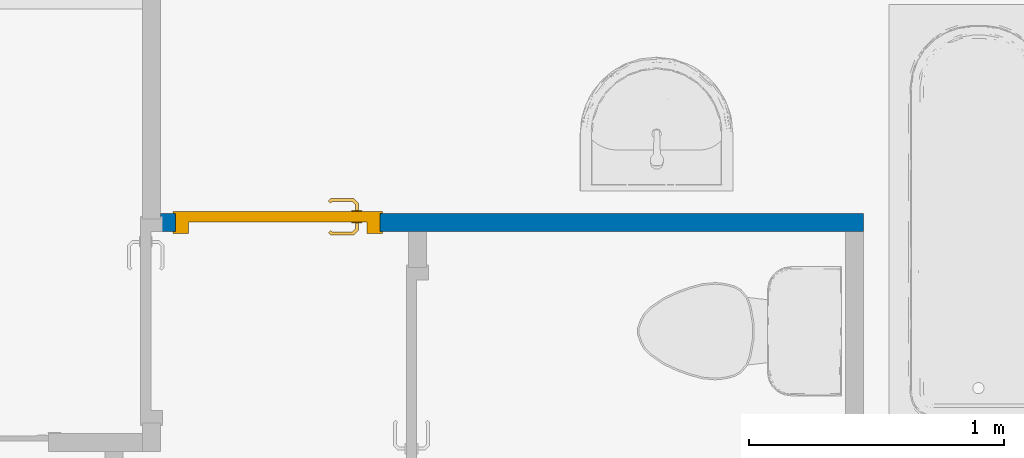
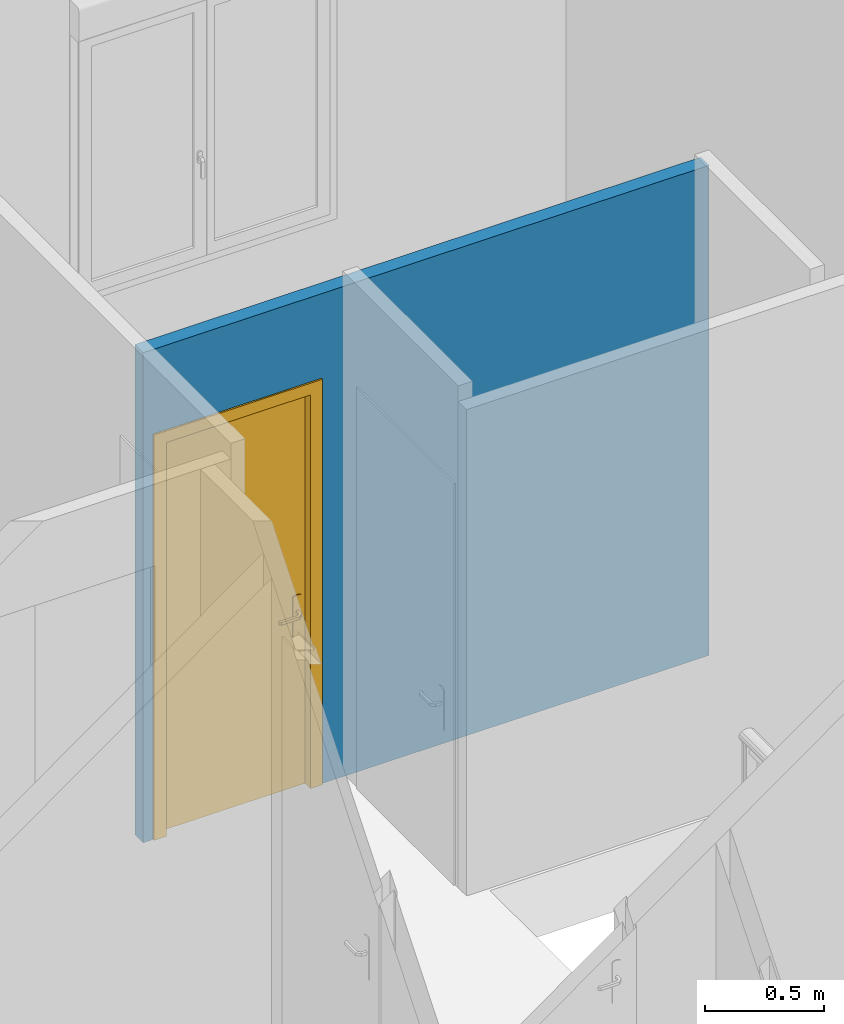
# One storey, part 20 of 50: 1 door, 1 wall, 1 opening.
"""IFC2X3 building model written with IfcOpenShell, lengths in metres."""

from ifc_helpers import new_model, entity, si_unit, converted_unit, derived_unit, direction, frame, frame_2d, origin, place, context, subcontext, project, spatial, rectangle, extrude, faceted_brep, source, transform, mapped, material, material_list, layer, layer_set, layer_usage, type_object, type_shapes, element, fill, save


model = new_model("IFC2X3")

# Units and contexts
model_context = context("Model", 3, precision=1e-05, world=origin(), true_north=direction((6.12303176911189e-17, 1.0)))
context_of_model = context(None, 3, precision=1e-05, world=origin(), true_north=direction((6.12303176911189e-17, 1.0)))
body_context = subcontext(model_context, "Body", "Model", "MODEL_VIEW")
ifc_project = project(units=[si_unit("LENGTHUNIT", "METRE"), si_unit("AREAUNIT", "SQUARE_METRE"), si_unit("VOLUMEUNIT", "CUBIC_METRE"), converted_unit("PLANEANGLEUNIT", "DEGREE", entity("IfcRatioMeasure", 0.0174532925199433), si_unit("PLANEANGLEUNIT", "RADIAN"), dimensions=[0, 0, 0, 0, 0, 0, 0]), si_unit("MASSUNIT", "GRAM", prefix="KILO"), si_unit("TIMEUNIT", "SECOND"), si_unit("FREQUENCYUNIT", "HERTZ"), si_unit("THERMODYNAMICTEMPERATUREUNIT", "DEGREE_CELSIUS"), derived_unit("THERMALTRANSMITTANCEUNIT", [(si_unit("MASSUNIT", "GRAM", prefix="KILO"), 1), (si_unit("THERMODYNAMICTEMPERATUREUNIT", "KELVIN"), -1), (si_unit("TIMEUNIT", "SECOND"), -3)]), derived_unit("VOLUMETRICFLOWRATEUNIT", [(si_unit("LENGTHUNIT", "METRE"), 3), (si_unit("TIMEUNIT", "SECOND"), -1)]), si_unit("ELECTRICCURRENTUNIT", "AMPERE"), si_unit("ELECTRICVOLTAGEUNIT", "VOLT"), si_unit("POWERUNIT", "WATT"), si_unit("FORCEUNIT", "NEWTON", prefix="KILO"), si_unit("ILLUMINANCEUNIT", "LUX"), si_unit("LUMINOUSFLUXUNIT", "LUMEN"), si_unit("LUMINOUSINTENSITYUNIT", "CANDELA"), si_unit("PRESSUREUNIT", "PASCAL")], contexts=[model_context, context_of_model])

# Site, building, storey
site_placement = place(None, origin())
site = spatial("IfcSite", under=ifc_project, at=site_placement, Name="Surface", CompositionType="ELEMENT")
building_placement = place(site_placement, origin())
building = spatial("IfcBuilding", under=site, at=building_placement, CompositionType="ELEMENT")
storey_placement = place(building_placement, frame((0.0, 0.0, 2.82)))
storey = spatial("IfcBuildingStorey", under=building, at=storey_placement, Name="ETAGE", CompositionType="ELEMENT", Elevation=2.82)

# Wall, opening, door
ifc_material_1 = material(Name="Peinture - Blanc")
ifc_layer = layer(ifc_material_1, 0.07)
ifc_layer_set = layer_set([ifc_layer], Name="Mur de base:Int.  Platre 70 mm en blanc")
ifc_layer_usage = layer_usage(ifc_layer_set, "AXIS2", "POSITIVE", -0.035)
wall_type = type_object("IfcWallType", Name="Mur de base:Int.  Platre 70 mm en blanc", PredefinedType="STANDARD", material=ifc_layer_set)
wall_placement = place(storey_placement, frame((67.8146263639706, 85.5527566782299, 0.0), z_axis=(0.0, 0.0, 1.0), x_axis=(-1.0, 0.0, 0.0)))
wall = element("IfcWallStandardCase", 1, at=wall_placement, inside=storey, type_object=wall_type, material=ifc_layer_usage, Name="Mur de base:Int.  Platre 70 mm en blanc", ObjectType="Mur de base:Int.  Platre 70 mm en blanc", context=body_context, shape_type="SweptSolid", body=[
    extrude(rectangle(XDim=2.75211659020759, YDim=0.0699999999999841, at=frame_2d((1.37605829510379, 1.64451785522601e-15), x_axis=(-1.0, 0.0))), origin(), (0.0, 0.0, 1.0), 2.52),
])
opening_placement = place(wall_placement, frame((2.69355829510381, 0.0350000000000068, 0.0)))
opening = element("IfcOpeningElement", 2, at=opening_placement, cuts=wall, Name="FR_Simple (R):73 x 204 - (70):1", ObjectType="Opening", context=body_context, shape_type="SweptSolid", body=[
    extrude(rectangle(XDim=2.075, YDim=0.799999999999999, at=frame_2d((1.0375, 0.4), x_axis=(1.0, 0.0))), frame((0.0, 0.0, 0.0), z_axis=(0.0, -1.0, 0.0), x_axis=(0.0, 0.0, 1.0)), (0.0, 0.0, 1.0), 0.07),
])
ifc_material_2 = material(Name="Poignée Porte")
ifc_material_3 = material(Name="Dormants Portes")
ifc_material_4 = material(Name="Panneaux Portes")
ifc_material_list_1 = material_list([ifc_material_2, ifc_material_3, ifc_material_4])
ifc_material_list_2 = material_list([ifc_material_2, ifc_material_3, ifc_material_4])
door_style = type_object("IfcDoorStyle", Name="73 x 204 - (70)", ConstructionType="NOTDEFINED", OperationType="SINGLE_SWING_LEFT", ParameterTakesPrecedence=False, Sizeable=False, material=ifc_material_list_2)
shared_shape = source(origin(), body_context, "Body", "Brep", [
    faceted_brep([(0.100352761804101, -0.0130000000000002, 0.766003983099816), (0.11, -0.0130000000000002, 0.770000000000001), (0.11, -0.0130000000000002, 0.980000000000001), (0.100352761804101, -0.0130000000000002, 0.983996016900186), (0.0900000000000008, -0.0130000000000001, 0.985358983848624), (0.0796472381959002, -0.0130000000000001, 0.983996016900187), (0.0700000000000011, -0.0130000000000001, 0.980000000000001), (0.0700000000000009, -0.0130000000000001, 0.770000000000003), (0.0796472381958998, -0.0130000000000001, 0.766003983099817), (0.0900000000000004, -0.0130000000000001, 0.764641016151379), (0.100352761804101, -0.00800000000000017, 0.983996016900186), (0.11, -0.00800000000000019, 0.980000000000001), (0.11, -0.00800000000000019, 0.770000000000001), (0.100352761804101, -0.00800000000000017, 0.766003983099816), (0.0900000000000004, -0.00800000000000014, 0.764641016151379), (0.0796472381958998, -0.0080000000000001, 0.766003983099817), (0.0700000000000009, -0.00800000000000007, 0.770000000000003), (0.0700000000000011, -0.00800000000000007, 0.980000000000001), (0.0796472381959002, -0.0080000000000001, 0.983996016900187), (0.0900000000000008, -0.00800000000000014, 0.985358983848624)], [[[0, 1, 2, 3, 4, 5, 6, 7, 8, 9]], [[10, 11, 12, 13, 14, 15, 16, 17, 18, 19]], [[16, 15, 8, 7]], [[8, 15, 14, 9]], [[14, 13, 0, 9]], [[13, 12, 1, 0]], [[2, 1, 12, 11]], [[11, 10, 3, 2]], [[3, 10, 19, 4]], [[19, 18, 5, 4]], [[18, 17, 6, 5]], [[7, 6, 17, 16]]]),
    faceted_brep([(0.100352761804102, 0.0319999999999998, 0.766003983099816), (0.110000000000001, 0.0319999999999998, 0.770000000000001), (0.11, 0.0319999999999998, 0.980000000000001), (0.100352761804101, 0.0319999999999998, 0.983996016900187), (0.0900000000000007, 0.0319999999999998, 0.985358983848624), (0.0796472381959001, 0.0319999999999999, 0.983996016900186), (0.0700000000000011, 0.0319999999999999, 0.980000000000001), (0.0700000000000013, 0.0319999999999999, 0.770000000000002), (0.0796472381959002, 0.0319999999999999, 0.766003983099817), (0.0900000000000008, 0.0319999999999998, 0.764641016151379), (0.100352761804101, 0.0369999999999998, 0.983996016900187), (0.11, 0.0369999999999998, 0.980000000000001), (0.110000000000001, 0.0369999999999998, 0.770000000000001), (0.100352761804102, 0.0369999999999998, 0.766003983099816), (0.0900000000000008, 0.0369999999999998, 0.764641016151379), (0.0796472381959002, 0.0369999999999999, 0.766003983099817), (0.0700000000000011, 0.0369999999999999, 0.770000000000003), (0.0700000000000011, 0.0369999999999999, 0.980000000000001), (0.0796472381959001, 0.0369999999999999, 0.983996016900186), (0.0900000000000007, 0.0369999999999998, 0.985358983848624)], [[[0, 1, 2, 3, 4, 5, 6, 7, 8, 9]], [[10, 11, 12, 13, 14, 15, 16, 17, 18, 19]], [[11, 10, 3, 2]], [[3, 10, 19, 4]], [[19, 18, 5, 4]], [[18, 17, 6, 5]], [[7, 6, 17, 16]], [[16, 15, 8, 7]], [[8, 15, 14, 9]], [[14, 13, 0, 9]], [[13, 12, 1, 0]], [[2, 1, 12, 11]]]),
    faceted_brep([(0.0879747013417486, -0.0130000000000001, 0.907780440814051), (0.0920252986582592, -0.0130000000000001, 0.907780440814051), (0.0960000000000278, -0.0130000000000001, 0.906999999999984), (0.0960000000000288, -0.0130000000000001, 0.893000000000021), (0.0920252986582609, -0.0130000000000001, 0.89221955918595), (0.0879747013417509, -0.0130000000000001, 0.892219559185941), (0.0839999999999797, -0.0130000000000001, 0.892999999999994), (0.0839999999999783, -0.0130000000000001, 0.90699999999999), (0.083999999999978, -0.0406509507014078, 0.906999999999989), (0.0879747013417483, -0.0390045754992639, 0.907780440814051), (0.104023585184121, -0.0550534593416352, 0.907780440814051), (0.105701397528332, -0.0510028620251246, 0.907780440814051), (0.0920252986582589, -0.0373267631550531, 0.907780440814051), (0.198521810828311, -0.0473891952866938, 0.90778044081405), (0.195657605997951, -0.0445249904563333, 0.90778044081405), (0.18917973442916, -0.0510028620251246, 0.90778044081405), (0.190857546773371, -0.0550534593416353, 0.90778044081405), (0.0960000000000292, -0.0356803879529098, 0.90699999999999), (0.0960000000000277, -0.0356803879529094, 0.893000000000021), (0.0920252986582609, -0.0373267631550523, 0.89221955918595), (0.105701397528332, -0.0510028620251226, 0.89221955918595), (0.104023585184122, -0.0550534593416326, 0.89221955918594), (0.0879747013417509, -0.0390045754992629, 0.89221955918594), (0.195657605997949, -0.044524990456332, 0.89221955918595), (0.19852181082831, -0.0473891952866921, 0.89221955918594), (0.19085754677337, -0.0550534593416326, 0.89221955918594), (0.18917973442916, -0.0510028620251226, 0.89221955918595), (0.0839999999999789, -0.0406509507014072, 0.892999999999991), (0.102377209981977, -0.0590281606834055, 0.906999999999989), (0.107347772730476, -0.0470281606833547, 0.90699999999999), (0.107347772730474, -0.0470281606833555, 0.893000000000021), (0.102377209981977, -0.0590281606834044, 0.892999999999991), (0.142307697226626, -0.0590281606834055, 0.906999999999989), (0.147440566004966, -0.053182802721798, 0.907878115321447), (0.192503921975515, -0.0590281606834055, 0.906999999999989), (0.147440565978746, -0.0470281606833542, 0.90699999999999), (0.187533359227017, -0.0470281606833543, 0.906999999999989), (0.187533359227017, -0.0470281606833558, 0.89300000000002), (0.147440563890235, -0.0470281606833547, 0.893000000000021), (0.147440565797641, -0.0531828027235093, 0.892121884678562), (0.192503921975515, -0.0590281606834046, 0.892999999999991), (0.152573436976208, -0.0590281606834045, 0.892999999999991), (0.192847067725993, -0.0417144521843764, 0.906999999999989), (0.201332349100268, -0.0501997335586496, 0.906999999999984), (0.201332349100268, -0.05019973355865, 0.892999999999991), (0.192847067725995, -0.0417144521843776, 0.893000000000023)], [[[0, 1, 2, 3, 4, 5, 6, 7]], [[8, 9, 0, 7]], [[9, 10, 11, 12, 1, 0]], [[13, 14, 15, 16]], [[12, 17, 2, 1]], [[3, 2, 17, 18]], [[18, 19, 4, 3]], [[19, 20, 21, 22, 5, 4]], [[23, 24, 25, 26]], [[22, 27, 6, 5]], [[7, 6, 27, 8]], [[28, 10, 9, 8]], [[11, 29, 17, 12]], [[18, 17, 29, 30]], [[30, 20, 19, 18]], [[21, 31, 27, 22]], [[8, 27, 31, 28]], [[32, 33, 10]], [[33, 32, 16]], [[10, 28, 32]], [[34, 16, 32]], [[33, 35, 11]], [[11, 10, 33]], [[15, 35, 33]], [[29, 11, 35]], [[35, 15, 36]], [[15, 33, 16]], [[30, 29, 35, 36, 37, 38]], [[20, 38, 39]], [[25, 40, 41]], [[31, 21, 41]], [[41, 21, 39]], [[39, 38, 26]], [[26, 25, 39]], [[38, 20, 30]], [[37, 26, 38]], [[20, 39, 21]], [[41, 39, 25]], [[28, 31, 41, 40, 34, 32]], [[42, 14, 13, 43, 44, 24, 23, 45]], [[43, 13, 16, 34]], [[14, 42, 36, 15]], [[37, 36, 42, 45]], [[45, 23, 26, 37]], [[24, 44, 40, 25]], [[34, 40, 44, 43]]]),
    faceted_brep([(0.0879747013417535, 0.0369999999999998, 0.892219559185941), (0.092025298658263, 0.0369999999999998, 0.892219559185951), (0.0960000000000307, 0.0369999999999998, 0.893000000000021), (0.096000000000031, 0.0369999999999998, 0.90699999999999), (0.0920252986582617, 0.0369999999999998, 0.907780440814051), (0.0879747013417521, 0.0369999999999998, 0.907780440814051), (0.0839999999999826, 0.0369999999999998, 0.90699999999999), (0.0839999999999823, 0.0369999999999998, 0.892999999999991), (0.0960000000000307, 0.0594852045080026, 0.893000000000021), (0.0960000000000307, 0.0594852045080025, 0.90699999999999), (0.092025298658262, 0.0611315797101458, 0.907780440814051), (0.105838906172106, 0.0749451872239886, 0.907780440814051), (0.104161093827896, 0.0789957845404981, 0.907780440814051), (0.0879747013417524, 0.0628093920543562, 0.907780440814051), (0.195684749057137, 0.0684673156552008, 0.907780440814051), (0.198548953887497, 0.071331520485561, 0.907780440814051), (0.190884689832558, 0.0789957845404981, 0.907780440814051), (0.189206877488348, 0.0749451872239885, 0.907780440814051), (0.0839999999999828, 0.0644557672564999, 0.90699999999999), (0.0839999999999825, 0.0644557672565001, 0.892999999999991), (0.0879747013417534, 0.0628093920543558, 0.892219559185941), (0.104161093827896, 0.0789957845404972, 0.892219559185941), (0.105838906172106, 0.0749451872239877, 0.892219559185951), (0.0920252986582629, 0.0611315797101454, 0.892219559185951), (0.198548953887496, 0.07133152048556, 0.89221955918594), (0.195684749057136, 0.0684673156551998, 0.89221955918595), (0.189206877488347, 0.0749451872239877, 0.89221955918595), (0.190884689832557, 0.0789957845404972, 0.89221955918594), (0.107485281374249, 0.0709704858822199, 0.893000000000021), (0.107485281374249, 0.0709704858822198, 0.90699999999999), (0.102514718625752, 0.0829704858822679, 0.90699999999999), (0.102514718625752, 0.0829704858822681, 0.892999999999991), (0.147522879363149, 0.0709704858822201, 0.89300000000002), (0.187560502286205, 0.0709704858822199, 0.89300000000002), (0.187560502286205, 0.0709704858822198, 0.90699999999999), (0.147522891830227, 0.0709704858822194, 0.90699999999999), (0.147522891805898, 0.0771249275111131, 0.907878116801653), (0.192531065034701, 0.0829704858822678, 0.90699999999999), (0.152600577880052, 0.0829704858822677, 0.90699999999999), (0.192531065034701, 0.082970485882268, 0.892999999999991), (0.142445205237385, 0.0829704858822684, 0.892999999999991), (0.147522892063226, 0.0771249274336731, 0.892121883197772), (0.192874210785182, 0.0656567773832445, 0.89300000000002), (0.201359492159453, 0.0741420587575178, 0.892999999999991), (0.201359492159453, 0.0741420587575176, 0.90699999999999), (0.192874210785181, 0.0656567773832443, 0.90699999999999)], [[[0, 1, 2, 3, 4, 5, 6, 7]], [[3, 2, 8, 9]], [[9, 10, 4, 3]], [[10, 11, 12, 13, 5, 4]], [[14, 15, 16, 17]], [[13, 18, 6, 5]], [[7, 6, 18, 19]], [[19, 20, 0, 7]], [[20, 21, 22, 23, 1, 0]], [[24, 25, 26, 27]], [[23, 8, 2, 1]], [[9, 8, 28, 29]], [[29, 11, 10, 9]], [[12, 30, 18, 13]], [[19, 18, 30, 31]], [[31, 21, 20, 19]], [[22, 28, 8, 23]], [[28, 32, 33, 34, 35, 29]], [[11, 35, 36]], [[16, 37, 38]], [[30, 12, 38]], [[38, 12, 36]], [[36, 35, 17]], [[17, 16, 36]], [[35, 11, 29]], [[34, 17, 35]], [[11, 36, 12]], [[38, 36, 16]], [[31, 30, 38, 37, 39, 40]], [[40, 41, 21]], [[41, 40, 27]], [[21, 31, 40]], [[39, 27, 40]], [[41, 32, 22]], [[22, 21, 41]], [[26, 32, 41]], [[28, 22, 32]], [[32, 26, 33]], [[26, 41, 27]], [[42, 25, 24, 43, 44, 15, 14, 45]], [[34, 33, 42, 45]], [[45, 14, 17, 34]], [[15, 44, 37, 16]], [[39, 37, 44, 43]], [[43, 24, 27, 39]], [[25, 42, 33, 26]]]),
    faceted_brep([(0.0, 0.0, 0.0), (0.0, 0.0700000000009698, 0.0), (-0.00999999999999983, 0.0700000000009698, 0.0), (-0.00999999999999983, 0.0780000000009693, 0.0), (0.0499999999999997, 0.0780000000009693, 0.0), (0.0499999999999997, 0.032, 0.0), (0.0350000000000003, 0.032, 0.0), (0.0350000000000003, -0.00799999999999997, 0.0), (-0.00999999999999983, -0.00799999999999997, 0.0), (-0.00999999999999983, 0.0, 0.0), (0.0, 0.0, 2.075), (0.0, 0.0700000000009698, 2.075), (0.799999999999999, 0.0700000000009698, 2.075), (0.799999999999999, 0.0700000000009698, 0.0), (0.809999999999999, 0.0700000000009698, 0.0), (0.809999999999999, 0.0700000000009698, 2.085), (-0.00999999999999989, 0.0700000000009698, 2.085), (-0.00999999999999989, 0.0780000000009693, 2.085), (0.809999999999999, 0.0780000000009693, 2.085), (0.809999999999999, 0.0780000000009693, 0.0), (0.75, 0.0780000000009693, 0.0), (0.75, 0.0780000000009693, 2.025), (0.0499999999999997, 0.0780000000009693, 2.025), (0.0499999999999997, 0.032, 2.025), (0.75, 0.032, 2.025), (0.75, 0.032, 0.0), (0.764999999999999, 0.032, 0.0), (0.764999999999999, 0.032, 2.04), (0.0350000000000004, 0.032, 2.04), (0.0350000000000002, -0.00799999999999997, 2.04), (0.764999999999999, -0.00799999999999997, 2.04), (0.764999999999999, -0.00799999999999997, 0.0), (0.809999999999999, -0.00799999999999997, 0.0), (0.809999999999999, -0.00799999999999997, 2.085), (-0.00999999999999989, -0.00799999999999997, 2.085), (-0.00999999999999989, 0.0, 2.085), (0.809999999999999, 0.0, 2.085), (0.809999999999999, 0.0, 0.0), (0.799999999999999, 0.0, 0.0), (0.799999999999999, 0.0, 2.075)], [[[0, 1, 2, 3, 4, 5, 6, 7, 8, 9]], [[1, 0, 10, 11]], [[2, 1, 11, 12, 13, 14, 15, 16]], [[3, 2, 16, 17]], [[4, 3, 17, 18, 19, 20, 21, 22]], [[5, 4, 22, 23]], [[6, 5, 23, 24, 25, 26, 27, 28]], [[7, 6, 28, 29]], [[8, 7, 29, 30, 31, 32, 33, 34]], [[9, 8, 34, 35]], [[0, 9, 35, 36, 37, 38, 39, 10]], [[11, 10, 39, 12]], [[17, 16, 15, 18]], [[23, 22, 21, 24]], [[29, 28, 27, 30]], [[35, 34, 33, 36]], [[38, 37, 32, 31, 26, 25, 20, 19, 14, 13]], [[12, 39, 38, 13]], [[18, 15, 14, 19]], [[24, 21, 20, 25]], [[30, 27, 26, 31]], [[36, 33, 32, 37]]]),
    faceted_brep([(0.0350000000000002, -0.00799999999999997, 2.04), (0.0350000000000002, -0.00799999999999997, 0.0), (0.764999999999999, -0.00799999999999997, 0.0), (0.764999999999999, -0.00799999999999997, 2.04), (0.0350000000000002, 0.032, 2.04), (0.764999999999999, 0.032, 2.04), (0.764999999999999, 0.032, 0.0), (0.0350000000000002, 0.032, 0.0)], [[[0, 1, 2, 3]], [[4, 5, 6, 7]], [[1, 0, 4, 7]], [[2, 1, 7, 6]], [[3, 2, 6, 5]], [[0, 3, 5, 4]]]),
])
type_shapes(door_style, [shared_shape])
door_placement = place(opening_placement, frame((-0.799999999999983, -0.0699999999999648, 0.0)))
door = element("IfcDoor", 3, at=door_placement, inside=storey, type_object=door_style, material=ifc_material_list_1, Name="FR_Simple (R):73 x 204 - (70)", ObjectType="73 x 204 - (70)", OverallHeight=2.075, OverallWidth=0.8, context=body_context, shape_type="MappedRepresentation", body=[
    mapped(shared_shape, transform((0.0, 0.0, 0.0), scale=1.0)),
])
fill(opening, door)

save(model, "model.ifc")
